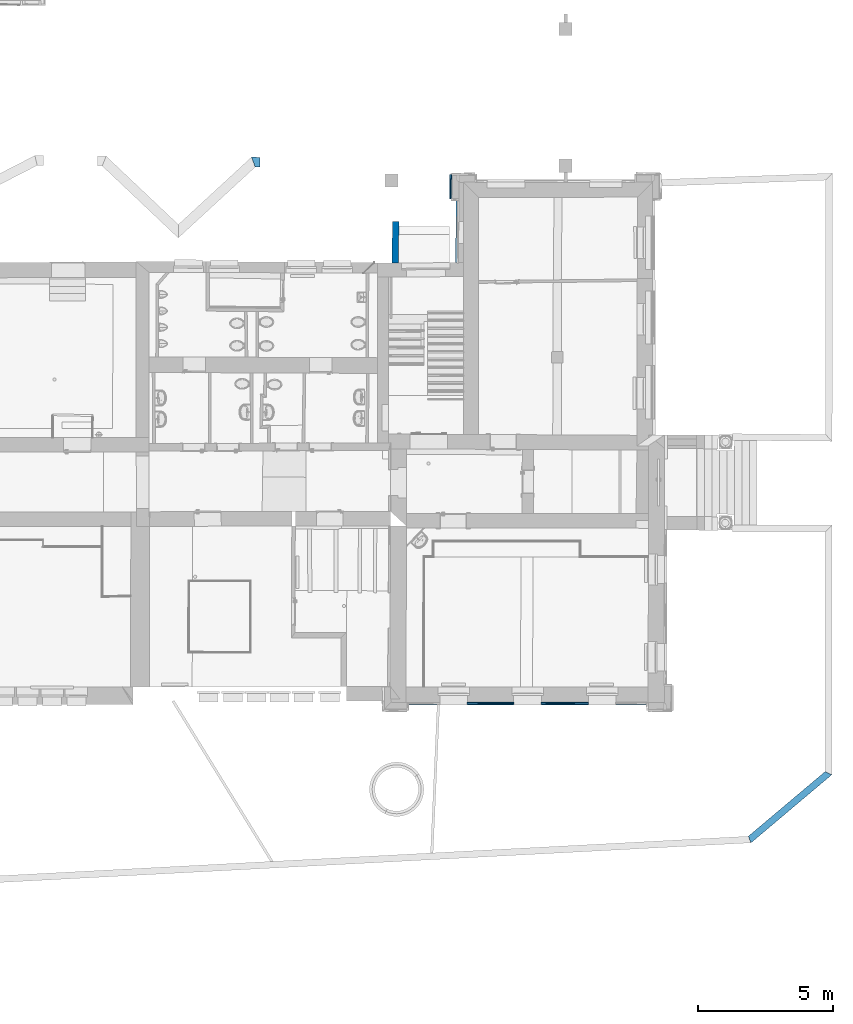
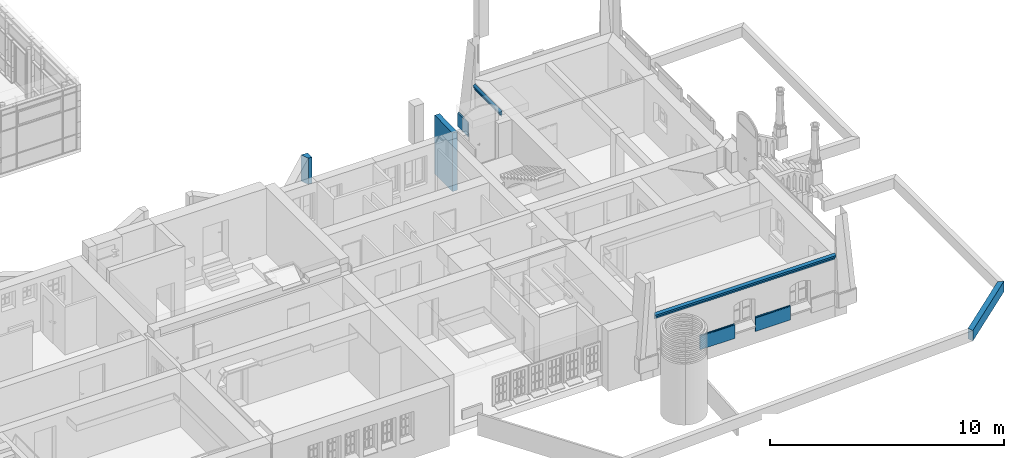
# One storey, part 51 of 196: 8 walls.
"""IFC2X3 building model written with IfcOpenShell, lengths in metres."""

from ifc_helpers import new_model, entity, si_unit, converted_unit, derived_unit, money_unit, point, direction, frame, frame_2d, origin_with_axes, place, context, subcontext, project, spatial, polyline, circle_curve, parameter, trimmed, segment, composite_curve, outline, extrude, material, layer, layer_set, layer_usage, type_object, element, save


model = new_model("IFC2X3")

# Units and contexts
model_context = context("Model", 3, precision=1e-05, world=origin_with_axes(), true_north=direction((0.0, 1.0)))
body_context = subcontext(model_context, "Body", "Model", "MODEL_VIEW")
ifc_project = project(units=[si_unit("LENGTHUNIT", "METRE"), si_unit("AREAUNIT", "SQUARE_METRE"), si_unit("VOLUMEUNIT", "CUBIC_METRE"), converted_unit("PLANEANGLEUNIT", "DEGREE", entity("IfcPlaneAngleMeasure", 0.0174532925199), si_unit("PLANEANGLEUNIT", "RADIAN"), dimensions=[0, 0, 0, 0, 0, 0, 0]), money_unit("EUR"), converted_unit("TIMEUNIT", "Year", entity("IfcTimeMeasure", 31556926.0), si_unit("TIMEUNIT", "SECOND"), dimensions=[0, 0, 1, 0, 0, 0, 0]), si_unit("MASSUNIT", "GRAM", prefix="KILO"), si_unit("THERMODYNAMICTEMPERATUREUNIT", "DEGREE_CELSIUS"), si_unit("LUMINOUSINTENSITYUNIT", "LUMEN"), si_unit("ENERGYUNIT", "JOULE", prefix="MEGA"), derived_unit("THERMALCONDUCTANCEUNIT", [(si_unit("POWERUNIT", "WATT"), 1), (si_unit("LENGTHUNIT", "METRE"), -1), (si_unit("THERMODYNAMICTEMPERATUREUNIT", "KELVIN"), -1)]), derived_unit("SPECIFICHEATCAPACITYUNIT", [(si_unit("ENERGYUNIT", "JOULE"), 1), (si_unit("MASSUNIT", "GRAM", prefix="KILO"), -1), (si_unit("THERMODYNAMICTEMPERATUREUNIT", "KELVIN"), -1)]), derived_unit("MASSDENSITYUNIT", [(si_unit("MASSUNIT", "GRAM", prefix="KILO"), 1), (si_unit("VOLUMEUNIT", "CUBIC_METRE"), -1)])], contexts=[model_context])

# Site, building, storey
site_placement = place(None, origin_with_axes())
site = spatial("IfcSite", under=ifc_project, at=site_placement, Name="Gelände", CompositionType="ELEMENT")
building_placement = place(site_placement, origin_with_axes())
building = spatial("IfcBuilding", under=site, at=building_placement, Name="Gebäude", CompositionType="ELEMENT")
storey_placement = place(building_placement, frame((0.0, 0.0, -3.0), z_axis=(0.0, 0.0, 1.0), x_axis=(1.0, 0.0, 0.0)))
storey = spatial("IfcBuildingStorey", under=building, at=storey_placement, Name="KELLERGESCHOSS", CompositionType="ELEMENT", Elevation=-3.0)

# Walls
ifc_material_1 = material(Name="05_ALLGEMEIN - TRAGENDE BAUTEILE")
ifc_layer_1 = layer(ifc_material_1, 0.250000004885, ventilated="UNKNOWN")
ifc_layer_set_1 = layer_set([ifc_layer_1], Name="05_ALLGEMEIN - TRAGENDE BAUTEILE 0.25")
ifc_layer_usage_1 = layer_usage(ifc_layer_set_1, "AXIS2", "POSITIVE", 0.0)
wall_type_1 = type_object("IfcWallType", Name="05_ALLGEMEIN - TRAGENDE BAUTEILE 250", PredefinedType="ELEMENTEDWALL")
wall_1_placement = place(storey_placement, frame((38.065766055, 7.32881695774, 0.212), z_axis=(0.0, 0.0, 1.0), x_axis=(-0.764825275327, -0.644237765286, 0.0)))
element("IfcWallStandardCase", 1, at=wall_1_placement, inside=storey, type_object=wall_type_1, material=ifc_layer_usage_1, Name="Wand-039", ObjectType="ELEMENTEDWALL", context=body_context, shape_type="SweptSolid", body=[
    extrude(outline(polyline([(0.0, 0.0), (3.71517174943, 0.0), (3.79903754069, 0.25), (-0.116259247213, 0.25), (0.0, 0.0)])), origin_with_axes(), (0.0, 0.0, 1.0), 0.55),
])
ifc_layer_2 = layer(ifc_material_1, 0.24, ventilated="UNKNOWN")
ifc_layer_set_2 = layer_set([ifc_layer_2], Name="05_ALLGEMEIN - TRAGENDE BAUTEILE 0.24")
ifc_layer_usage_2 = layer_usage(ifc_layer_set_2, "AXIS2", "NEGATIVE", 0.0)
wall_type_2 = type_object("IfcWallType", Name="05_ALLGEMEIN - TRAGENDE BAUTEILE 240", PredefinedType="ELEMENTEDWALL")
wall_2_placement = place(storey_placement, frame((22.0239393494, 26.1722327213, -0.36), z_axis=(0.0, 0.0, 1.0), x_axis=(0.00871675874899, 0.999962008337, 0.0)))
element("IfcWallStandardCase", 2, at=wall_2_placement, inside=storey, type_object=wall_type_2, material=ifc_layer_usage_2, Name="Wand-031", ObjectType="ELEMENTEDWALL", context=body_context, shape_type="SweptSolid", body=[
    extrude(outline(polyline([(0.00339647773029, -0.24), (1.53728974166, -0.24), (1.53728974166, 0.0), (0.0, 0.0), (0.00339647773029, -0.24)])), origin_with_axes(), (0.0, 0.0, 1.0), 3.06),
])
ifc_layer_3 = layer(ifc_material_1, 0.365, ventilated="UNKNOWN")
ifc_layer_set_3 = layer_set([ifc_layer_3], Name="05_ALLGEMEIN - TRAGENDE BAUTEILE 0.365")
ifc_layer_usage_3 = layer_usage(ifc_layer_set_3, "AXIS2", "NEGATIVE", 0.365)
wall_type_3 = type_object("IfcWallType", Name="05_ALLGEMEIN - TRAGENDE BAUTEILE 365", PredefinedType="ELEMENTEDWALL")
wall_3_placement = place(storey_placement, frame((17.136122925, 30.085727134, -0.36), z_axis=(0.0, 0.0, 1.0), x_axis=(-0.999757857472, 0.0220051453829, 0.0)))
element("IfcWallStandardCase", 3, at=wall_3_placement, inside=storey, type_object=wall_type_3, material=ifc_layer_usage_3, Name="Wand-030", ObjectType="ELEMENTEDWALL", context=body_context, shape_type="SweptSolid", body=[
    extrude(outline(polyline([(0.0, 0.0), (0.319758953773, 0.0), (0.1726093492, 0.365), (0.0, 0.365), (0.0, 0.0)])), origin_with_axes(), (0.0, 0.0, 1.0), 1.36684061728),
])
ifc_material_2 = material(Name="01_ALLGEMEIN - BAUTEIL")
wall_type_4 = type_object("IfcWallType", Name="Fassade Sims 2 100 x 317", PredefinedType="ELEMENTEDWALL")
wall_4_placement = place(storey_placement, frame((24.4775864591, 26.1855664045, 3.0001877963), z_axis=(0.0, 0.0, 1.0), x_axis=(0.00729687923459, 0.999973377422, 0.0)))
element("IfcWall", 4, at=wall_4_placement, inside=storey, type_object=wall_type_4, material=ifc_material_2, Name="Wand-072", ObjectType="ELEMENTEDWALL", context=body_context, shape_type="SweptSolid", body=[
    extrude(outline(composite_curve([segment(polyline([(0.0803683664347, -0.186906), (0.0895185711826, -0.093362), (0.0995232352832, -0.087582), (0.0998272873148, -0.082979), (0.0954028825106, -0.076844), (0.0345157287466, -0.016522), (0.0, 0.0), (0.0, -0.316717), (0.0018235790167, -0.316717), (0.0200141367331, -0.312632), (0.0311727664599, -0.240312)]), True, "CONTINUOUS"), segment(trimmed(circle_curve(frame_2d((0.0901432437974, -0.245271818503), x_axis=(-0.165175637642, 0.986264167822)), 0.0591786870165), [point((0.0311727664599, -0.240312)), parameter(75.6849122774)], [point((0.0803683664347, -0.186906)), parameter(0.0)], False, "CARTESIAN"), True, "CONTINUOUS")], self_intersect=False)), frame((0.0, 0.0, 0.0), z_axis=(1.0, 0.0, 0.0), x_axis=(0.0, 1.0, 0.0)), (0.0, 0.0, 1.0), 2.32202868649),
])
wall_5_placement = place(storey_placement, frame((31.5085523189, 9.89149370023, 3.0001877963), z_axis=(0.0, 0.0, 1.0), x_axis=(-0.999999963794, -0.000269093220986, 0.0)))
element("IfcWall", 5, at=wall_5_placement, inside=storey, type_object=wall_type_4, material=ifc_material_2, Name="Wand-073", ObjectType="ELEMENTEDWALL", context=body_context, shape_type="SweptSolid", body=[
    extrude(outline(composite_curve([segment(polyline([(0.0803683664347, -0.186906), (0.0895185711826, -0.093362), (0.0995232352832, -0.087582), (0.0998272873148, -0.082979), (0.0954028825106, -0.076844), (0.0345157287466, -0.016522), (0.0, 0.0), (0.0, -0.316717), (0.0018235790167, -0.316717), (0.0200141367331, -0.312632), (0.0311727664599, -0.240312)]), True, "CONTINUOUS"), segment(trimmed(circle_curve(frame_2d((0.0901432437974, -0.245271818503), x_axis=(-0.165175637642, 0.986264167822)), 0.0591786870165), [point((0.0311727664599, -0.240312)), parameter(75.6849122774)], [point((0.0803683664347, -0.186906)), parameter(0.0)], False, "CARTESIAN"), True, "CONTINUOUS")], self_intersect=False)), frame((0.0, 0.0, 0.0), z_axis=(1.0, 0.0, 0.0), x_axis=(0.0, 1.0, 0.0)), (0.0, 0.0, 1.0), 8.92658095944),
])
wall_type_5 = type_object("IfcWallType", Name="Sockel 1 59 x 750", PredefinedType="ELEMENTEDWALL")
wall_6_placement = place(storey_placement, frame((24.220341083, 28.5450023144, 1.05914340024), z_axis=(0.0, 0.0, 1.0), x_axis=(0.00915176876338, 0.999958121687, 0.0)))
element("IfcWall", 6, at=wall_6_placement, inside=storey, type_object=wall_type_5, material=ifc_material_2, Name="Wand-077", ObjectType="ELEMENTEDWALL", context=body_context, shape_type="SweptSolid", body=[
    extrude(outline(composite_curve([segment(polyline([(0.0582254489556, -0.75), (0.0575648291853, -0.072488)]), True, "CONTINUOUS"), segment(trimmed(circle_curve(frame_2d((0.00752199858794, -0.0589368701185), x_axis=(0.965236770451, -0.261377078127)), 0.0518451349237), [point((0.0575648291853, -0.072488)), parameter(0.0)], [point((0.0162927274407, -0.007839)), parameter(95.4121261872)], True, "CARTESIAN"), True, "CONTINUOUS"), segment(polyline([(0.0162927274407, -0.007839), (0.00232171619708, 0.0), (0.0, 0.0), (0.0, -0.75), (0.0582254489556, -0.75)]), True, "CONTINUOUS")], self_intersect=False)), frame((0.0, 0.0, 0.0), z_axis=(1.0, 0.0, 0.0), x_axis=(0.0, 1.0, 0.0)), (0.0, 0.0, 1.0), 0.895409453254),
])
wall_7_placement = place(storey_placement, frame((29.2937233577, 9.89089770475, 1.05914340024), z_axis=(0.0, 0.0, 1.0), x_axis=(-0.999999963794, -0.000269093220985, 0.0)))
element("IfcWall", 7, at=wall_7_placement, inside=storey, type_object=wall_type_5, material=ifc_material_2, Name="Wand-077", ObjectType="ELEMENTEDWALL", context=body_context, shape_type="SweptSolid", body=[
    extrude(outline(composite_curve([segment(polyline([(0.0582254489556, -0.75), (0.0575648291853, -0.072488)]), True, "CONTINUOUS"), segment(trimmed(circle_curve(frame_2d((0.00752199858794, -0.0589368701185), x_axis=(0.965236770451, -0.261377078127)), 0.0518451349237), [point((0.0575648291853, -0.072488)), parameter(0.0)], [point((0.0162927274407, -0.007839)), parameter(95.4121261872)], True, "CARTESIAN"), True, "CONTINUOUS"), segment(polyline([(0.0162927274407, -0.007839), (0.00232171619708, 0.0), (0.0, 0.0), (0.0, -0.75), (0.0582254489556, -0.75)]), True, "CONTINUOUS")], self_intersect=False)), frame((0.0, 0.0, 0.0), z_axis=(1.0, 0.0, 0.0), x_axis=(0.0, 1.0, 0.0)), (0.0, 0.0, 1.0), 1.73762571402),
])
wall_8_placement = place(storey_placement, frame((26.5322866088, 9.89015462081, 1.05914340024), z_axis=(0.0, 0.0, 1.0), x_axis=(-1.0, 0.0, 0.0)))
element("IfcWall", 8, at=wall_8_placement, inside=storey, type_object=wall_type_5, material=ifc_material_2, Name="Wand-078", ObjectType="ELEMENTEDWALL", context=body_context, shape_type="SweptSolid", body=[
    extrude(outline(composite_curve([segment(polyline([(0.0582254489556, -0.75), (0.0575648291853, -0.072488)]), True, "CONTINUOUS"), segment(trimmed(circle_curve(frame_2d((0.00752199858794, -0.0589368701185), x_axis=(0.965236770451, -0.261377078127)), 0.0518451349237), [point((0.0575648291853, -0.072488)), parameter(0.0)], [point((0.0162927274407, -0.007839)), parameter(95.4121261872)], True, "CARTESIAN"), True, "CONTINUOUS"), segment(polyline([(0.0162927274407, -0.007839), (0.00232171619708, 0.0), (0.0, 0.0), (0.0, -0.75), (0.0582254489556, -0.75)]), True, "CONTINUOUS")], self_intersect=False)), frame((0.0, 0.0, 0.0), z_axis=(1.0, 0.0, 0.0), x_axis=(0.0, 1.0, 0.0)), (0.0, 0.0, 1.0), 1.7147365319),
])

save(model, "model.ifc")
